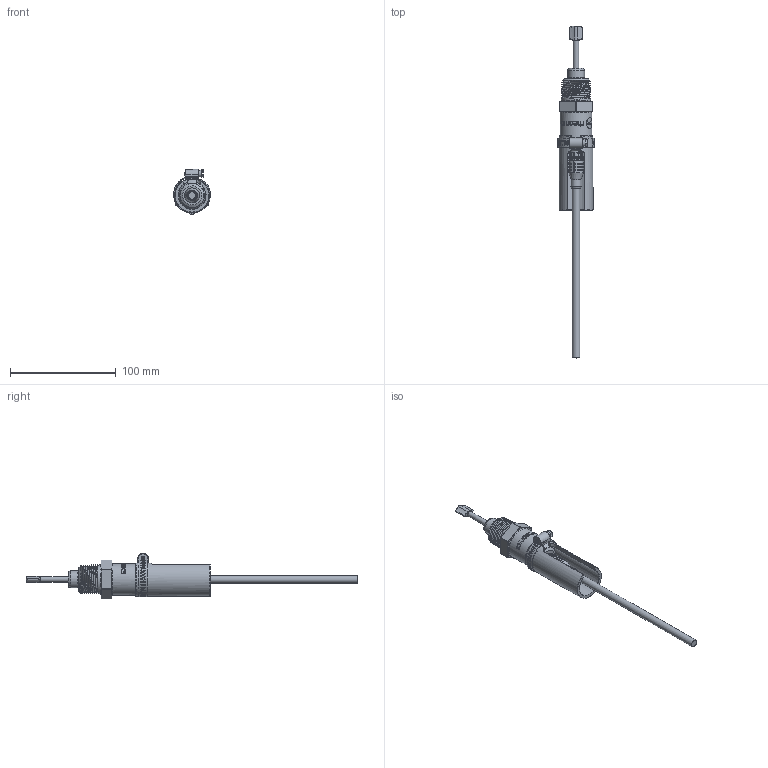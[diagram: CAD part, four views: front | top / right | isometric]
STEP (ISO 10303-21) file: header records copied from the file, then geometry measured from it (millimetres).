
FILE_DESCRIPTION(/* description */ ('Unknown'),/* implementation_level */ '2;1');
FILE_NAME(/* name */ 'SRD-NPT_IMS-SR',/* time_stamp */ '2023-12-14T10:15:26-05:00',/* author */ ('Unknown'),/* organization */ ('Unknown'),/* preprocessor_version */ 'ST-DEVELOPER v16.7',/* originating_system */ 'Solid Edge',/* authorisation */ 'Unknown');
FILE_SCHEMA (('CONFIG_CONTROL_DESIGN'));
Products named in the file (5): SRD-NPT_IMS-SR; SRD_NPT; IMS-SR; M12_Cable_oa_0; Worm drive
Assembly tree (4 placements, depth 2):
  SRD-NPT_IMS-SR
    SRD_NPT
    IMS-SR
    M12_Cable_oa_0
    Worm drive
Bounding box: 34.56 x 313.48 x 42.98 mm (x, y, z)
Volume: 73263.8 mm3; surface area: 31896.4 mm2
Topology: 6 solids, 6 shells, 1040 faces, 2904 edges, 1910 vertices
Faces by surface type: plane 524, bspline 231, cylinder 216, cone 37, sphere 21, torus 11
Full cylindrical faces by diameter (mm): 0.8 x16, 3.175 x2, 5 x1, 6.35 x1, 7 x2, 8 x2, 9 x1, 12 x7, 12.5 x1, 14 x1, 16 x1, 30 x1
Entity records: 58718 total; most frequent: CARTESIAN_POINT 28806, ORIENTED_EDGE 5442, DIRECTION 4481, EDGE_CURVE 2721, VERTEX_POINT 1823, AXIS2_PLACEMENT_3D 1528, LINE 1425, VECTOR 1425
